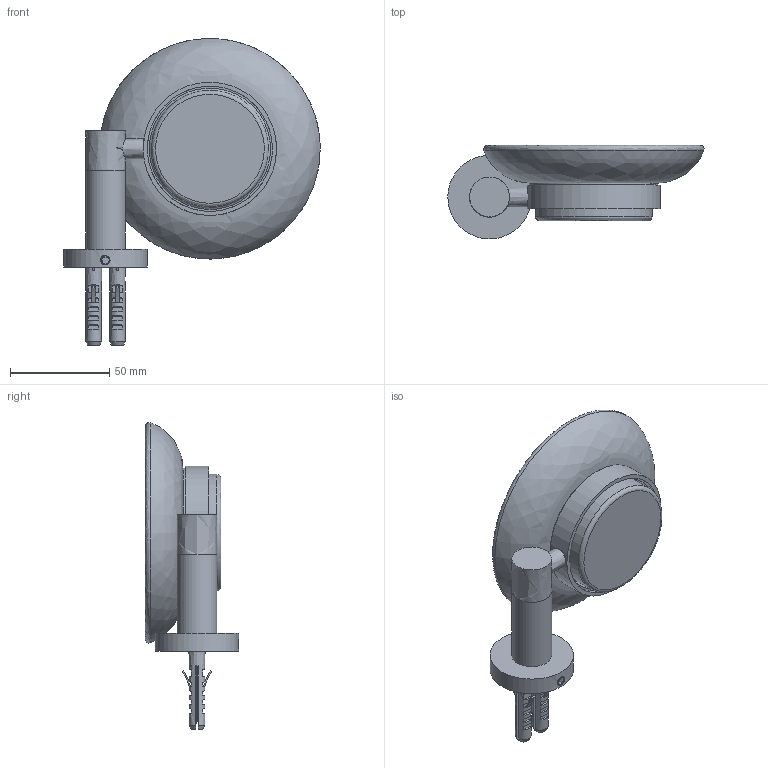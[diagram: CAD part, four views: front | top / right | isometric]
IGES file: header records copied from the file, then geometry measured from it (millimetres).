
Global section: file name: 39821d01-8204-4d93-861e-af0b247ef378; native system: unknown; preprocessor: unknown; author: unknown; organization: unknown; date: 20200108.122003; units: millimetre
Bounding box: 128.98 x 47.01 x 154.48 mm (x, y, z)
Volume: 134387.8 mm3; surface area: 60810.2 mm2
Topology: 14 solids, 14 shells, 464 faces, 1220 edges, 805 vertices
Faces by surface type: bspline 464
